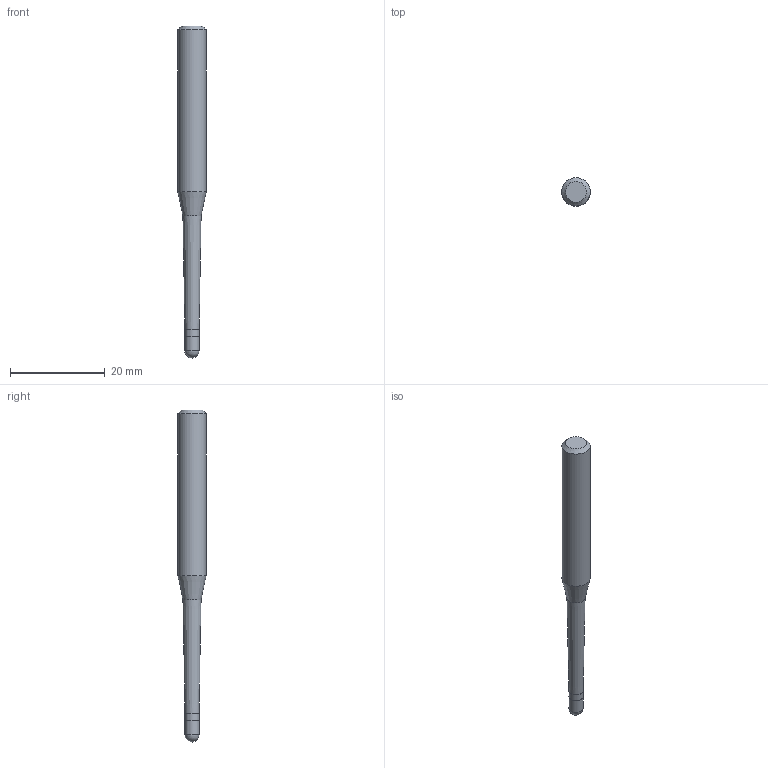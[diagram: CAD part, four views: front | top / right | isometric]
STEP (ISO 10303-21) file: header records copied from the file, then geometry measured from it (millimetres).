
FILE_DESCRIPTION((''),'2;1');
FILE_NAME('C:\Users\nsx150\AppData\Local\Temp\Mastercam 2021\E0ENTZRV18\TEMP.step','2021-09-02T09:57:21',(''),(''),'STEP Write','Mastercam 2021 ... CNC Software, Inc.','');
FILE_SCHEMA(('AUTOMOTIVE_DESIGN'));
Length unit declared in the file: millimetre
Products named in the file (1): None
Bounding box: 6 x 6 x 70 mm (x, y, z)
Volume: 1339 mm3; surface area: 1084.8 mm2
Topology: 2 solids, 2 shells, 10 faces, 16 edges, 9 vertices
Faces by surface type: plane 3, cylinder 3, cone 3, sphere 1
Full cylindrical faces by diameter (mm): 2.98 x1, 3 x1, 6 x1
Entity records: 232 total; most frequent: DIRECTION 40, CARTESIAN_POINT 28, AXIS2_PLACEMENT_3D 20, ORIENTED_EDGE 16, EDGE_LOOP 16, STYLED_ITEM 13, ADVANCED_FACE 10, FACE_BOUND 9
